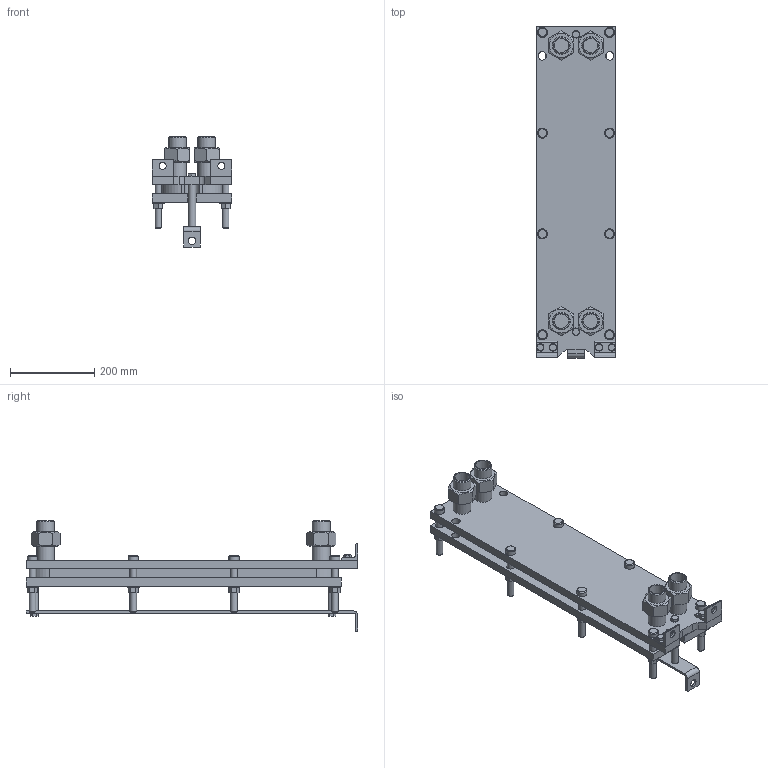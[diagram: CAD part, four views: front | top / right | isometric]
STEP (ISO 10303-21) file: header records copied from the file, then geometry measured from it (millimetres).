
FILE_DESCRIPTION(/* description */ (''),/* implementation_level */ '2;1');
FILE_NAME(/* name */ 'C:\Users\zhuro\Desktop\ENCO\TO\ЭН-008\ЭН-0,5-008-7-1.stp',/* time_stamp */ '2022-06-06T10:45:35+03:00',/* author */ ('zhuro'),/* organization */ (''),/* preprocessor_version */ 'ST-DEVELOPER v18.1',/* originating_system */ 'Autodesk Inventor 2022',/* authorisation */ '');
FILE_SCHEMA (('AUTOMOTIVE_DESIGN { 1 0 10303 214 3 1 1 }'));
Length unit declared in the file: millimetre
Products named in the file (1): ЭН-0,5-008-7-1
Bounding box: 190 x 790 x 262.6 mm (x, y, z)
Volume: 8791024.2 mm3; surface area: 1234853.6 mm2
Topology: 40 solids, 40 shells, 428 faces, 924 edges, 606 vertices
Faces by surface type: plane 273, cylinder 109, cone 40, torus 6
Full cylindrical faces by diameter (mm): 12 x6, 14 x2, 16 x20, 17 x8, 18 x19, 20 x5, 24 x8, 28 x8, 34.3 x8, 42.3 x8
Entity records: 15843 total; most frequent: CARTESIAN_POINT 5991, DIRECTION 1984, ORIENTED_EDGE 1848, EDGE_CURVE 924, AXIS2_PLACEMENT_3D 715, VERTEX_POINT 606, LINE 554, VECTOR 554
